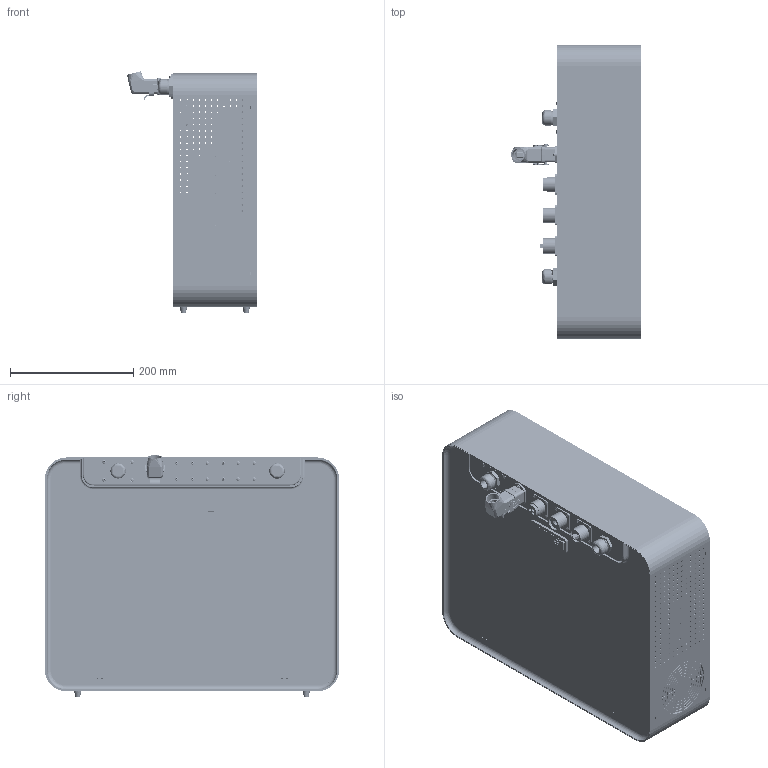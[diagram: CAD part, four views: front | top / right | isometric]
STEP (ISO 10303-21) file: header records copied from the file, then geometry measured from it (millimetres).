
FILE_DESCRIPTION (( 'STEP AP203' ), '1' );
FILE_NAME ('ERB3K2M.STEP', '2020-06-13T09:44:03', ( '' ), ( '' ), 'SwSTEP 2.0', 'SolidWorks 2017', '' );
FILE_SCHEMA (( 'CONFIG_CONTROL_DESIGN' ));
Length unit declared in the file: millimetre
Products named in the file (41): PRT0015; GBT818-2000M38_A; _X2_56FE5757_X0__08_A; foot; _4-505050; INTERNET_PLUGIN_FEMALE_PIN_A; ZN17001020021 ERB3K2M 协作机器人控制柜 EC612控制柜钣金机箱 48V-M 镀锌板; 01_LSX001_ALL_00000_ASM; ERB3K2M; THROUGH_WALL_UNIT; PRT0085; PRT0006; PRT0014; 02_LSX001_ALL_00000_ASM; USB_PLUGIN_FEMALE_PIN_A; MD_09620030301_R000001_A_ASM; M3_3; PRT0002; right; 7-4; SD-25C-5; _X2_56FE5757_X0__03_A; 09200042634_100579646MOD000A_A_ASM; PRT0088; _X2_56FE5757_X0__05_A; SD-100C-24; RS485_PLUGIN_FEMALE_PIN_A_ASM; PRT0017; MS738-1; PRT0087; 48 傷諳; 09200042734_100579644MOD000A_A_ASM; _X2_56FE5757_X0__07_A; SD-1000L-48; HAN_4_PE_A_ASM; PRT0086; 7-3; 瑞圮; 03_LSX001_ALL_00000_ASM; 2-505051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
Assembly tree (68 placements, depth 4):
  ERB3K2M
    01_LSX001_ALL_00000_ASM
      PRT0085
      PRT0086
      PRT0015
      PRT0017
      7-3
      7-4
    02_LSX001_ALL_00000_ASM
      PRT0002
      M3_3  x6
    03_LSX001_ALL_00000_ASM
      PRT0006
      PRT0014  x2
    MS738-1
    foot  x4
    right
    48 傷諳
    PRT0087
    PRT0088
    HAN_4_PE_A_ASM
      09200042634_100579646MOD000A_A_ASM
        _X2_56FE5757_X0__05_A
      09200042734_100579644MOD000A_A_ASM
        _X2_56FE5757_X0__08_A
      19620031640_100104673MOD000A_A_ASM
        _X2_56FE5757_X0__03_A
      MD_09620030301_R000001_A_ASM
        _X2_56FE5757_X0__07_A
    RS485_PLUGIN_FEMALE_PIN_A_ASM
      _4-505050
      2-505051
    THROUGH_WALL_UNIT  x2
    USB_PLUGIN_FEMALE_PIN_A
    INTERNET_PLUGIN_FEMALE_PIN_A
    GBT818-2000M38_A  x18
    ZN17001020021 ERB3K2M 协作机器人控制柜 EC612控制柜钣金机箱 48V-M 镀锌板
    SD-1000L-48  x2
    SD-25C-5
    SD-100C-24
    瑞圮
Bounding box: 210.85 x 477.5 x 392.3 mm (x, y, z)
Volume: 1485621.7 mm3; surface area: 2624591.3 mm2
Topology: 86 solids, 122 shells, 11684 faces, 33018 edges, 21591 vertices
Faces by surface type: cylinder 6127, plane 4115, bspline 977, cone 403, torus 62
Full cylindrical faces by diameter (mm): 21 x10
Entity records: 412014 total; most frequent: CARTESIAN_POINT 152289, ORIENTED_EDGE 54338, DIRECTION 50777, EDGE_CURVE 27222, AXIS2_PLACEMENT_3D 19076, VERTEX_POINT 17938, EDGE_LOOP 13464, VECTOR 12625
